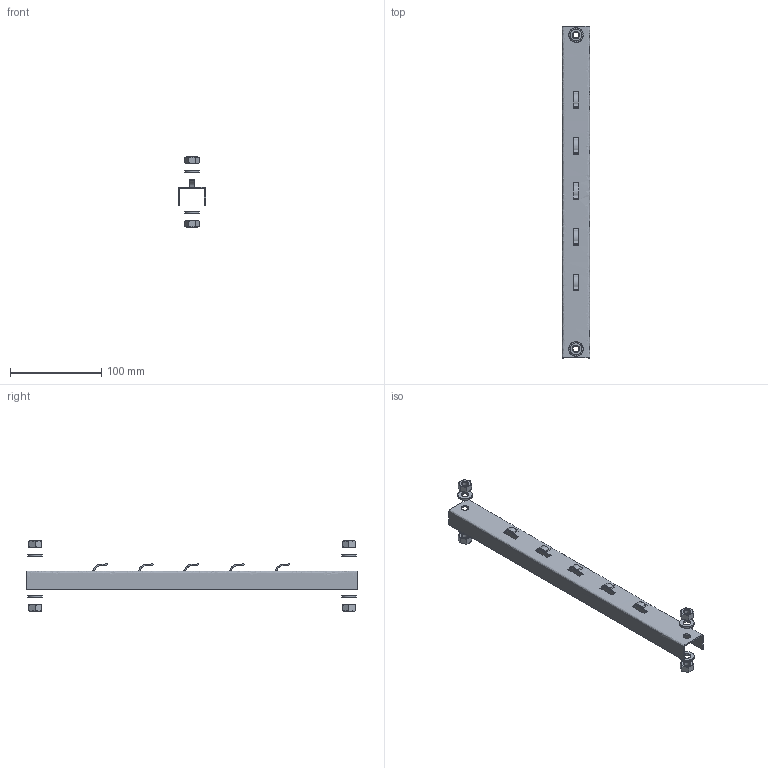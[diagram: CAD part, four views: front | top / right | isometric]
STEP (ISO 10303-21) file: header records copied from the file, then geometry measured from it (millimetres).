
FILE_DESCRIPTION(/* description */ (''),/* implementation_level */ '2;1');
FILE_NAME(/* name */ 'PZM300',/* time_stamp */ '2012-11-29T22:31:50+01:00',/* author */ (''),/* organization */ (''),/* preprocessor_version */ 'ST-DEVELOPER v10',/* originating_system */ '',/* authorisation */ '');
FILE_SCHEMA (('AUTOMOTIVE_DESIGN_CC2'));
Length unit declared in the file: millimetre
Products named in the file (1): 1
Bounding box: 30 x 364 x 76.8 mm (x, y, z)
Surface area: 54619.2 mm2 (no closed solid volume)
Topology: 0 solids, 162 shells, 192 faces, 838 edges, 782 vertices
Faces by surface type: bspline 138, plane 54
Entity records: 14535 total; most frequent: CARTESIAN_POINT 9139, ORIENTED_EDGE 894, EDGE_CURVE 834, VERTEX_POINT 774, B_SPLINE_CURVE_WITH_KNOTS 398, EDGE_LOOP 222, ADVANCED_FACE 192, FACE_OUTER_BOUND 192
